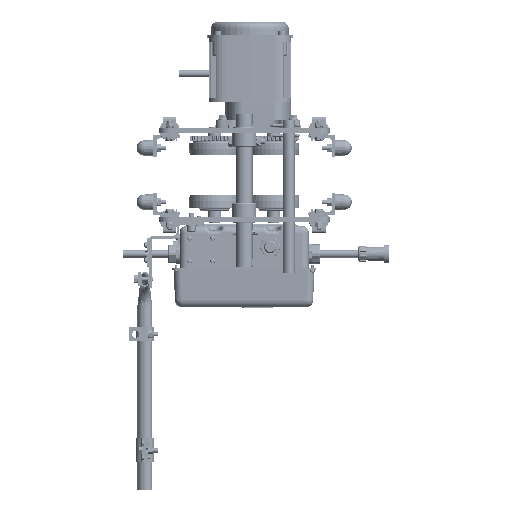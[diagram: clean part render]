
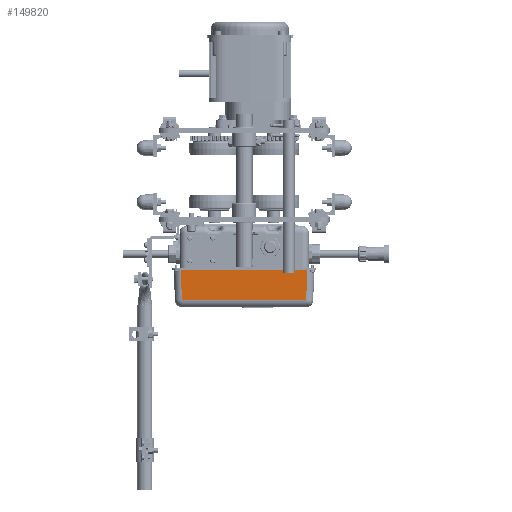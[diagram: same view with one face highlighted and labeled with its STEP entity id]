
A CAD part, front view. The second image highlights one B-rep face of the part: STEP entity #149820.
In plain terms, the highlighted planar face has unit normal (0, -0.999, -0.035) as drawn and (-0.035, -0.999, 0) by its records, which use the part's own axes.
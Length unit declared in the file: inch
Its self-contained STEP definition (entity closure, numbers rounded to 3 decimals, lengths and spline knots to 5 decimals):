
#3272 = FACE_OUTER_BOUND ( 'NONE', #170437, .T. ) ;
#3744 = CARTESIAN_POINT ( 'NONE',  ( -2.22259, 0.46994, 0.73446 ) ) ;
#4616 = CARTESIAN_POINT ( 'NONE',  ( -0.03937, 0.3937, 9.83076 ) ) ;
#12245 = VECTOR ( 'NONE', #137435, 39.37008 ) ;
#17235 = CARTESIAN_POINT ( 'NONE',  ( -2.69872, 0.48657, 9.7379 ) ) ;
#21573 = EDGE_CURVE ( 'NONE', #128356, #78947, #113325, .T. ) ;
#28339 = PLANE ( 'NONE',  #167451 ) ;
#30045 = DIRECTION ( 'NONE',  ( 0.999, -0.035, 0. ) ) ;
#31033 = DIRECTION ( 'NONE',  ( -0.999, 0.035, -0.035 ) ) ;
#37185 = ORIENTED_EDGE ( 'NONE', *, *, #21573, .T. ) ;
#38801 = CARTESIAN_POINT ( 'NONE',  ( -0.03937, 0.3937, 0.65822 ) ) ;
#41292 = DIRECTION ( 'NONE',  ( -0.035, -0.999, 0. ) ) ;
#42985 = CARTESIAN_POINT ( 'NONE',  ( -1.0803, 0.43005, 10.47244 ) ) ;
#45155 = DIRECTION ( 'NONE',  ( 0., 0., -1. ) ) ;
#62065 = CARTESIAN_POINT ( 'NONE',  ( -2.22259, 0.46994, 9.75453 ) ) ;
#63282 = DIRECTION ( 'NONE',  ( 0.999, -0.035, -0.035 ) ) ;
#70734 = LINE ( 'NONE', #17235, #89111 ) ;
#71898 = LINE ( 'NONE', #122844, #155997 ) ;
#78947 = VERTEX_POINT ( 'NONE', #38801 ) ;
#81630 = VECTOR ( 'NONE', #63282, 39.37008 ) ;
#82403 = EDGE_CURVE ( 'NONE', #129547, #91177, #70734, .T. ) ;
#89111 = VECTOR ( 'NONE', #31033, 39.37008 ) ;
#91177 = VERTEX_POINT ( 'NONE', #62065 ) ;
#98542 = CARTESIAN_POINT ( 'NONE',  ( -0.03937, 0.3937, 10.47244 ) ) ;
#106167 = ORIENTED_EDGE ( 'NONE', *, *, #160355, .T. ) ;
#111455 = LINE ( 'NONE', #98542, #12245 ) ;
#113325 = LINE ( 'NONE', #140975, #81630 ) ;
#119788 = EDGE_CURVE ( 'NONE', #129547, #78947, #111455, .T. ) ;
#120839 = ORIENTED_EDGE ( 'NONE', *, *, #119788, .F. ) ;
#122844 = CARTESIAN_POINT ( 'NONE',  ( -2.22259, 0.46994, 10.47244 ) ) ;
#127771 = ORIENTED_EDGE ( 'NONE', *, *, #82403, .T. ) ;
#128356 = VERTEX_POINT ( 'NONE', #3744 ) ;
#129547 = VERTEX_POINT ( 'NONE', #4616 ) ;
#137435 = DIRECTION ( 'NONE',  ( 0., 0., -1. ) ) ;
#140975 = CARTESIAN_POINT ( 'NONE',  ( -1.42092, 0.44195, 0.70647 ) ) ;
#149820 = ADVANCED_FACE ( 'NONE', ( #3272 ), #28339, .T. ) ;
#155997 = VECTOR ( 'NONE', #45155, 39.37008 ) ;
#160355 = EDGE_CURVE ( 'NONE', #91177, #128356, #71898, .T. ) ;
#167451 = AXIS2_PLACEMENT_3D ( 'NONE', #42985, #41292, #30045 ) ;
#170437 = EDGE_LOOP ( 'NONE', ( #120839, #127771, #106167, #37185 ) ) ;
